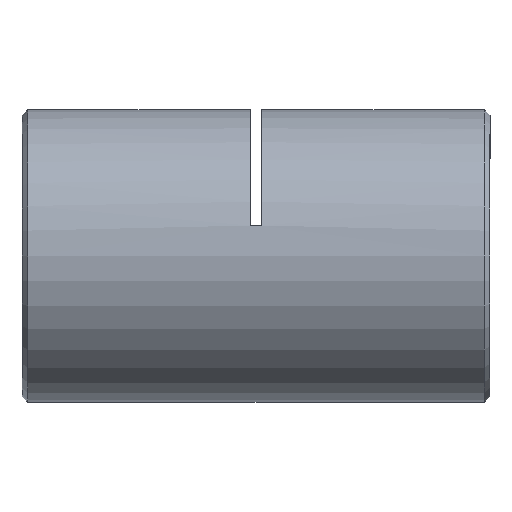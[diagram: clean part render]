
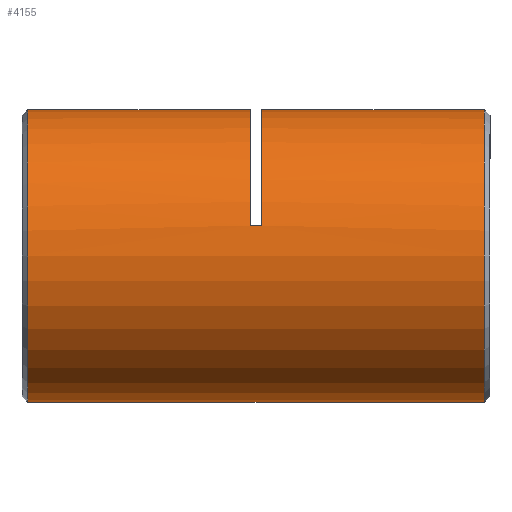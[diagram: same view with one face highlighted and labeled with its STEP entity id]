
A CAD part, left-side view. The second image highlights one B-rep face of the part: STEP entity #4155.
In plain terms, the highlighted cylindrical face has radius 12.5 mm (diameter 25 mm), a partial arc.
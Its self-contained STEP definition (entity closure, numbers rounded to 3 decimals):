
#175 = ORIENTED_EDGE ( 'NONE', *, *, #2523, .F. ) ;
#279 = DIRECTION ( 'NONE',  ( 0., -1., 0. ) ) ;
#533 = AXIS2_PLACEMENT_3D ( 'NONE', #4341, #2185, #5714 ) ;
#563 = EDGE_CURVE ( 'NONE', #3852, #2854, #737, .T. ) ;
#697 = CARTESIAN_POINT ( 'NONE',  ( 0., 0.75, 12.5 ) ) ;
#708 = CARTESIAN_POINT ( 'NONE',  ( 0., 19.75, 12.5 ) ) ;
#737 = CIRCLE ( 'NONE', #5834, 12.5 ) ;
#739 = DIRECTION ( 'NONE',  ( 0., -1., 0. ) ) ;
#871 = ORIENTED_EDGE ( 'NONE', *, *, #5692, .T. ) ;
#1060 = CARTESIAN_POINT ( 'NONE',  ( 0., 39.75, 12.5 ) ) ;
#1166 = AXIS2_PLACEMENT_3D ( 'NONE', #4113, #1873, #3417 ) ;
#1248 = LINE ( 'NONE', #2620, #5258 ) ;
#1310 = ORIENTED_EDGE ( 'NONE', *, *, #3524, .T. ) ;
#1499 = DIRECTION ( 'NONE',  ( 0., 1., 0. ) ) ;
#1528 = DIRECTION ( 'NONE',  ( 0., 0., 1. ) ) ;
#1603 = CARTESIAN_POINT ( 'NONE',  ( -12.226, 19.75, 2.604 ) ) ;
#1750 = CYLINDRICAL_SURFACE ( 'NONE', #4408, 12.5 ) ;
#1873 = DIRECTION ( 'NONE',  ( 0., 1., 0. ) ) ;
#1900 = LINE ( 'NONE', #4202, #5191 ) ;
#1956 = VECTOR ( 'NONE', #739, 1000. ) ;
#2154 = ORIENTED_EDGE ( 'NONE', *, *, #4810, .T. ) ;
#2165 = EDGE_CURVE ( 'NONE', #4914, #3209, #5615, .T. ) ;
#2185 = DIRECTION ( 'NONE',  ( 0., 1., 0. ) ) ;
#2205 = CIRCLE ( 'NONE', #1166, 12.5 ) ;
#2406 = CARTESIAN_POINT ( 'NONE',  ( 0., 20.75, 0. ) ) ;
#2523 = EDGE_CURVE ( 'NONE', #4260, #5137, #2205, .T. ) ;
#2532 = LINE ( 'NONE', #4332, #1956 ) ;
#2620 = CARTESIAN_POINT ( 'NONE',  ( 0., 40.5, -12.5 ) ) ;
#2727 = EDGE_LOOP ( 'NONE', ( #5558, #3687, #1310, #2154, #3811, #175, #871, #4559 ) ) ;
#2854 = VERTEX_POINT ( 'NONE', #3805 ) ;
#2886 = LINE ( 'NONE', #5148, #4421 ) ;
#2914 = DIRECTION ( 'NONE',  ( 0., -1., 0. ) ) ;
#3101 = CIRCLE ( 'NONE', #533, 12.5 ) ;
#3209 = VERTEX_POINT ( 'NONE', #5101 ) ;
#3417 = DIRECTION ( 'NONE',  ( 0., 0., 1. ) ) ;
#3524 = EDGE_CURVE ( 'NONE', #2854, #4514, #1248, .T. ) ;
#3591 = CARTESIAN_POINT ( 'NONE',  ( 0., 40.5, 0. ) ) ;
#3604 = CARTESIAN_POINT ( 'NONE',  ( 0., 0.75, -12.5 ) ) ;
#3687 = ORIENTED_EDGE ( 'NONE', *, *, #563, .T. ) ;
#3805 = CARTESIAN_POINT ( 'NONE',  ( 0., 39.75, -12.5 ) ) ;
#3811 = ORIENTED_EDGE ( 'NONE', *, *, #5676, .F. ) ;
#3852 = VERTEX_POINT ( 'NONE', #1060 ) ;
#4113 = CARTESIAN_POINT ( 'NONE',  ( 0., 19.75, 0. ) ) ;
#4155 = ADVANCED_FACE ( 'NONE', ( #5817 ), #1750, .T. ) ;
#4202 = CARTESIAN_POINT ( 'NONE',  ( -12.226, 20.25, 2.604 ) ) ;
#4260 = VERTEX_POINT ( 'NONE', #1603 ) ;
#4332 = CARTESIAN_POINT ( 'NONE',  ( 0., 40.5, 12.5 ) ) ;
#4341 = CARTESIAN_POINT ( 'NONE',  ( 0., 0.75, 0. ) ) ;
#4408 = AXIS2_PLACEMENT_3D ( 'NONE', #3591, #5386, #4488 ) ;
#4421 = VECTOR ( 'NONE', #2914, 1000. ) ;
#4488 = DIRECTION ( 'NONE',  ( 0., 0., -1. ) ) ;
#4514 = VERTEX_POINT ( 'NONE', #3604 ) ;
#4559 = ORIENTED_EDGE ( 'NONE', *, *, #2165, .T. ) ;
#4607 = DIRECTION ( 'NONE',  ( 0., 1., 0. ) ) ;
#4757 = DIRECTION ( 'NONE',  ( 0., -1., 0. ) ) ;
#4810 = EDGE_CURVE ( 'NONE', #4514, #5778, #3101, .T. ) ;
#4914 = VERTEX_POINT ( 'NONE', #5041 ) ;
#5041 = CARTESIAN_POINT ( 'NONE',  ( -12.226, 20.75, 2.604 ) ) ;
#5101 = CARTESIAN_POINT ( 'NONE',  ( 0., 20.75, 12.5 ) ) ;
#5137 = VERTEX_POINT ( 'NONE', #708 ) ;
#5138 = EDGE_CURVE ( 'NONE', #3852, #3209, #2532, .T. ) ;
#5148 = CARTESIAN_POINT ( 'NONE',  ( 0., 40.5, 12.5 ) ) ;
#5191 = VECTOR ( 'NONE', #4607, 1000. ) ;
#5207 = DIRECTION ( 'NONE',  ( 0., 0., -1. ) ) ;
#5258 = VECTOR ( 'NONE', #279, 1000. ) ;
#5326 = AXIS2_PLACEMENT_3D ( 'NONE', #2406, #1499, #1528 ) ;
#5386 = DIRECTION ( 'NONE',  ( 0., -1., 0. ) ) ;
#5558 = ORIENTED_EDGE ( 'NONE', *, *, #5138, .F. ) ;
#5615 = CIRCLE ( 'NONE', #5326, 12.5 ) ;
#5667 = CARTESIAN_POINT ( 'NONE',  ( 0., 39.75, 0. ) ) ;
#5676 = EDGE_CURVE ( 'NONE', #5137, #5778, #2886, .T. ) ;
#5692 = EDGE_CURVE ( 'NONE', #4260, #4914, #1900, .T. ) ;
#5714 = DIRECTION ( 'NONE',  ( 0., 0., 1. ) ) ;
#5778 = VERTEX_POINT ( 'NONE', #697 ) ;
#5817 = FACE_OUTER_BOUND ( 'NONE', #2727, .T. ) ;
#5834 = AXIS2_PLACEMENT_3D ( 'NONE', #5667, #4757, #5207 ) ;
